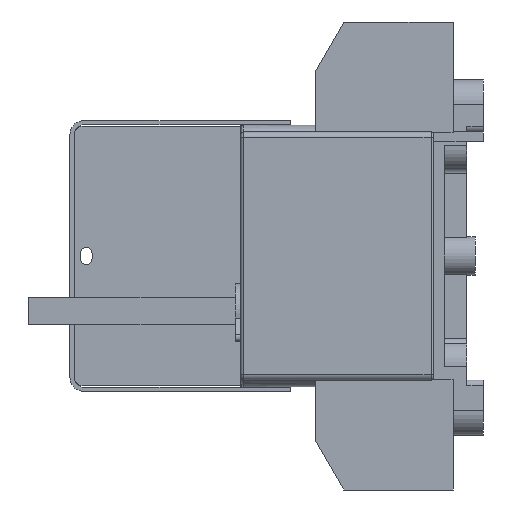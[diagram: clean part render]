
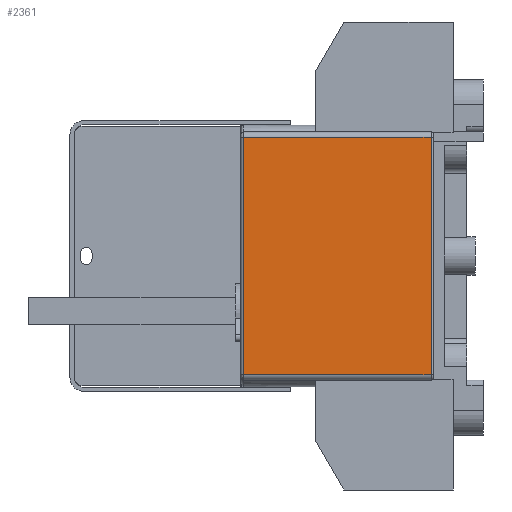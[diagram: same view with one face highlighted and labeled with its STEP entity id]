
A CAD part, left-side view. The second image highlights one B-rep face of the part: STEP entity #2361.
In plain terms, the highlighted planar face has unit normal (-1, 0, 0).
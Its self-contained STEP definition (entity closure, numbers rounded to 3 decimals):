
#2361=ADVANCED_FACE('',(#3838),#2989,.F.);
#2989=PLANE('',#20308);
#3838=FACE_OUTER_BOUND('',#4989,.T.);
#4989=EDGE_LOOP('',(#10019,#10020,#10021,#10022));
#10019=ORIENTED_EDGE('',*,*,#14753,.F.);
#10020=ORIENTED_EDGE('',*,*,#14751,.T.);
#10021=ORIENTED_EDGE('',*,*,#14754,.T.);
#10022=ORIENTED_EDGE('',*,*,#14207,.T.);
#11763=VERTEX_POINT('',#29869);
#11764=VERTEX_POINT('',#29888);
#12113=VERTEX_POINT('',#30994);
#12115=VERTEX_POINT('',#31015);
#14207=EDGE_CURVE('',#11764,#11763,#16334,.T.);
#14751=EDGE_CURVE('',#12113,#12115,#16714,.T.);
#14753=EDGE_CURVE('',#12113,#11763,#16716,.T.);
#14754=EDGE_CURVE('',#12115,#11764,#16717,.T.);
#16334=LINE('',#29887,#18285);
#16714=LINE('',#31035,#18665);
#16716=LINE('',#31038,#18667);
#16717=LINE('',#31040,#18668);
#18285=VECTOR('',#24371,1.);
#18665=VECTOR('',#25495,1.);
#18667=VECTOR('',#25499,1.);
#18668=VECTOR('',#25502,1.);
#20308=AXIS2_PLACEMENT_3D('',#31041,#25503,#25504);
#24371=DIRECTION('',(0.,0.,1.));
#25495=DIRECTION('',(0.,0.,-1.));
#25499=DIRECTION('',(0.,-1.,0.));
#25502=DIRECTION('',(0.,-1.,0.));
#25503=DIRECTION('',(1.,0.,0.));
#25504=DIRECTION('',(0.,0.,-1.));
#29869=CARTESIAN_POINT('',(-41.,1.,43.));
#29887=CARTESIAN_POINT('',(-41.,1.,-43.));
#29888=CARTESIAN_POINT('',(-41.,1.,-43.));
#30994=CARTESIAN_POINT('',(-41.,69.,43.));
#31015=CARTESIAN_POINT('',(-41.,69.,-43.));
#31035=CARTESIAN_POINT('',(-41.,69.,-43.));
#31038=CARTESIAN_POINT('',(-41.,35.,43.));
#31040=CARTESIAN_POINT('',(-41.,35.,-43.));
#31041=CARTESIAN_POINT('',(-41.,35.,-43.));
